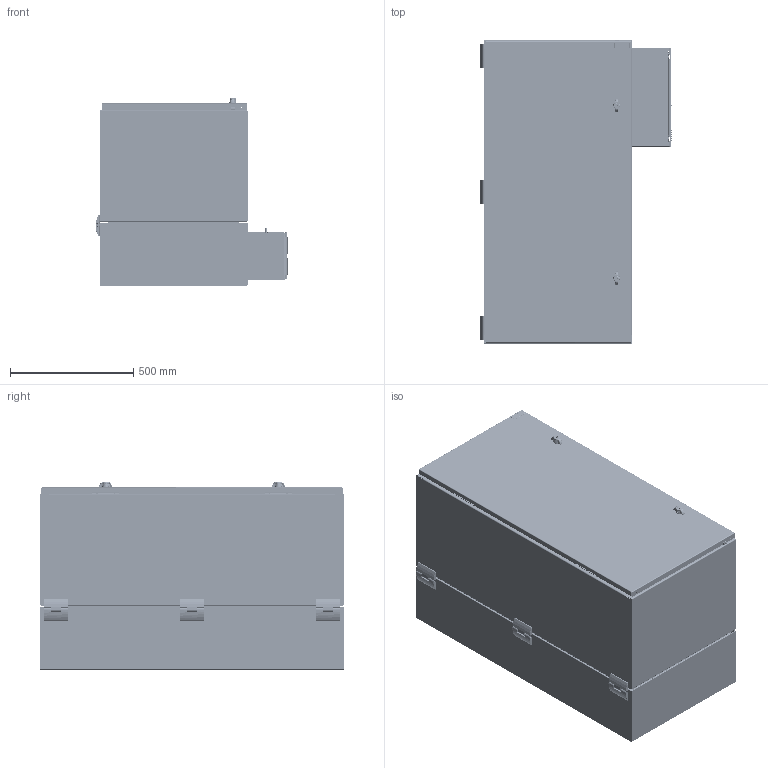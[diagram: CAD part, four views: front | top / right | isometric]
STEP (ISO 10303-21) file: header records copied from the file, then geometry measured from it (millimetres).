
FILE_DESCRIPTION (( 'STEP AP203' ), '1' );
FILE_NAME ('pths482428g4a.STEP', '2011-12-01T16:27:43', ( 'Hoffman User' ), ( 'Hoffman Enclosures' ), 'SwSTEP 2.0', 'SolidWorks 2010', '' );
FILE_SCHEMA (( 'CONFIG_CONTROL_DESIGN' ));
Products named in the file (51): pths482428g4a; 89082002; 89082003; 89072782; 89060191; 89071699_Installed Config; 89079061; 89078337; 89078336; 89066272; 99401225; 89076596_89060267; 89076597_Compressed wdw gasket; 89076598_89060269; 60127101_60127101; 89074727; 60100041_60100041; 87931527_87931527; 87931368_SLEEVE; 89071927_FOR 16GA; 99407418; 87928600; 64138001; 87790199; 60127214_601272214; 87790201_87790201; 60127135_Installed postion; 60127199_60127199; 56906712_56906712; 89066978; 89066977; 89066980; 89066979_WITH STAKE; 89066976; 87540581; 60127314; 89066975; 99411986; 89070550; 89070549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
Assembly tree (133 placements, depth 5):
  pths482428g4a
    89070550  x3
      89070549
      89056327
    89072784
    87922656  x11
    89060212  x3
    89071543_89071543  x3
    89072125_87931339  x2
    87790199  x2
    89066975  x3
    60127314  x4
    89076596_89060267
      64138001  x2
      89076597_Compressed wdw gasket
        60100041_60100041
          87931368_SLEEVE
          87931527_87931527
        89076598_89060269
        89074727
        60127101_60127101  x2
      89071927_FOR 16GA  x2
      99407418  x2
      87928600
    89060214  x3
    89066980  x3
      89066976
      87540581
      89066979_WITH STAKE
    99411986
    89082002
      89071699_Installed Config  x7
      89082003
      60100041_60100041
        87931368_SLEEVE
        87931527_87931527
      89074727
      89072782  x2
      89060191  x2
    89066978  x3
      87540581
      89066977
    89060213  x3
    87798865
    89060606_89060606  x2
    60127214_601272214  x2
      60127199_60127199
      60127135_Installed postion
      56906712_56906712
      87790201_87790201
    89070551  x2
    89079061
      99401225  x28
      89078337
      89066272  x2
      89078336
      60100041_60100041  x2
        87931368_SLEEVE
        87931527_87931527
Bounding box: 781.01 x 1233 x 759.17 mm (x, y, z)
Volume: 9720515 mm3; surface area: 11189944.9 mm2
Topology: 142 solids, 190 shells, 10442 faces, 26728 edges, 16564 vertices
Faces by surface type: plane 4582, cylinder 3159, bspline 1442, cone 747, torus 364, sphere 148
Entity records: 217870 total; most frequent: CARTESIAN_POINT 92021, ORIENTED_EDGE 25166, DIRECTION 22852, EDGE_CURVE 13038, VERTEX_POINT 8211, AXIS2_PLACEMENT_3D 7714, VECTOR 7424, LINE 7424
